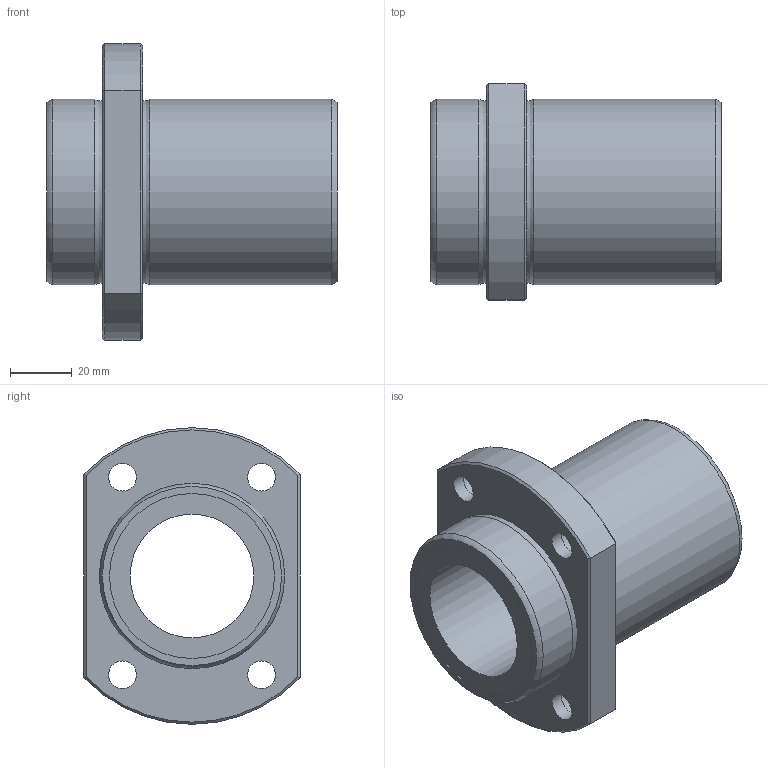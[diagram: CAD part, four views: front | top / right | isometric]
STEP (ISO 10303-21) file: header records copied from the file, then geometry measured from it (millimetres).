
FILE_DESCRIPTION((''),'2;1');
FILE_NAME('C:\Documents and Settings\土屋\My Documents\土屋移動用フォルダ\製品 (図面)\カタログ用3D\変換ファイル\OZAK_3D-CAD(STEP形式)\Part1.-Linear Bearings_ﾘﾆｱﾍﾞｱﾘﾝｸﾞ\09_Maintenance Free_ﾒｲﾝﾃﾅﾝｽﾌﾘｰ\L2017-09-21T13:55:29','2017-09-21T13:55:29',('y'),(''),'Autodesk Inventor 11','Autodesk Inventor 11','');
FILE_SCHEMA(('AUTOMOTIVE_DESIGN { 1 0 10303 214 1 1 1 1 }'));
Length unit declared in the file: millimetre
Products named in the file (1): LFTB-MF
Bounding box: 94 x 70 x 96 mm (x, y, z)
Volume: 182302.9 mm3; surface area: 41595.8 mm2
Topology: 1 solids, 1 shells, 39 faces, 75 edges, 46 vertices
Faces by surface type: bspline 14, plane 12, cylinder 7, cone 4, torus 2
Full cylindrical faces by diameter (mm): 40 x1, 53.4 x2, 60 x2
Entity records: 1177 total; most frequent: CARTESIAN_POINT 440, DIRECTION 140, ORIENTED_EDGE 116, EDGE_LOOP 74, AXIS2_PLACEMENT_3D 64, EDGE_CURVE 58, VERTEX_POINT 46, FACE_OUTER_BOUND 39
